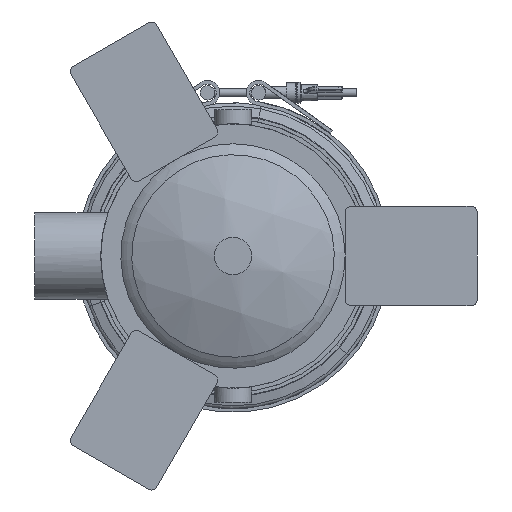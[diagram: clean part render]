
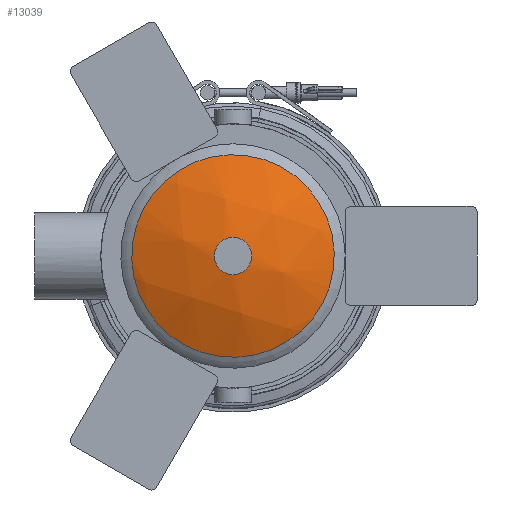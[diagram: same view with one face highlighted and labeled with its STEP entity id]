
A CAD part, front view. The second image highlights one B-rep face of the part: STEP entity #13039.
In plain terms, the highlighted spherical face has radius 174.041 mm.
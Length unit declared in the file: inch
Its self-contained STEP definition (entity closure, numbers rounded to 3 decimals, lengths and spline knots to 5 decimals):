
#273 = ORIENTED_EDGE ( 'NONE', *, *, #12497, .F. ) ;
#523 = ORIENTED_EDGE ( 'NONE', *, *, #2193, .F. ) ;
#885 = AXIS2_PLACEMENT_3D ( 'NONE', #5903, #9013, #1912 ) ;
#1912 = DIRECTION ( 'NONE',  ( -0.952, 0., 0.306 ) ) ;
#2193 = EDGE_CURVE ( 'NONE', #9895, #9895, #4914, .T. ) ;
#3623 = AXIS2_PLACEMENT_3D ( 'NONE', #7890, #7958, #8919 ) ;
#4914 = CIRCLE ( 'NONE', #3623, 0.5625 ) ;
#5846 = DIRECTION ( 'NONE',  ( 0.306, 0., 0.952 ) ) ;
#5903 = CARTESIAN_POINT ( 'NONE',  ( 0., -8.72889, 0. ) ) ;
#6376 = VERTEX_POINT ( 'NONE', #9616 ) ;
#6719 = CARTESIAN_POINT ( 'NONE',  ( 0., -9.42966, 0.5625 ) ) ;
#6802 = DIRECTION ( 'NONE',  ( -0.952, 0., 0.306 ) ) ;
#6868 = FACE_OUTER_BOUND ( 'NONE', #9690, .T. ) ;
#7890 = CARTESIAN_POINT ( 'NONE',  ( 0., -9.42966, 0. ) ) ;
#7958 = DIRECTION ( 'NONE',  ( 0., -1., 0. ) ) ;
#8069 = SPHERICAL_SURFACE ( 'NONE', #9763, 6.852 ) ;
#8919 = DIRECTION ( 'NONE',  ( 0., 0., 1. ) ) ;
#9013 = DIRECTION ( 'NONE',  ( 0., 1., 0. ) ) ;
#9616 = CARTESIAN_POINT ( 'NONE',  ( -2.91841, -8.72889, 0.93764 ) ) ;
#9690 = EDGE_LOOP ( 'NONE', ( #523 ) ) ;
#9763 = AXIS2_PLACEMENT_3D ( 'NONE', #12194, #5846, #6802 ) ;
#9848 = FACE_OUTER_BOUND ( 'NONE', #10557, .T. ) ;
#9895 = VERTEX_POINT ( 'NONE', #6719 ) ;
#10557 = EDGE_LOOP ( 'NONE', ( #273 ) ) ;
#12194 = CARTESIAN_POINT ( 'NONE',  ( 0., -2.60079, 0. ) ) ;
#12497 = EDGE_CURVE ( 'NONE', #6376, #6376, #13187, .T. ) ;
#13039 = ADVANCED_FACE ( 'NONE', ( #6868, #9848 ), #8069, .T. ) ;
#13187 = CIRCLE ( 'NONE', #885, 3.06534 ) ;
